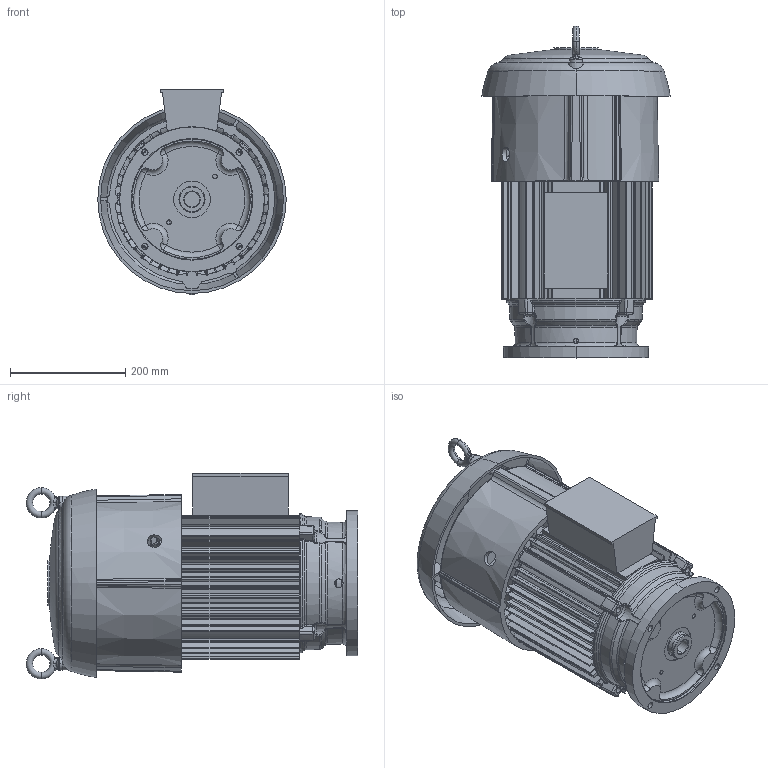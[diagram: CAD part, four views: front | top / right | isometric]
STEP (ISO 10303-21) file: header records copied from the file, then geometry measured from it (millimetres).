
FILE_DESCRIPTION((''),'2;1');
FILE_NAME('180TP_ASSY_ASM','2016-03-29T',('emd2341'),('Nidec Motor Corporation'),'PRO/ENGINEER BY PARAMETRIC TECHNOLOGY CORPORATION, 2013150','PRO/ENGINEER BY PARAMETRIC TECHNOLOGY CORPORATION, 2013150','');
FILE_SCHEMA(('CONFIG_CONTROL_DESIGN'));
Length unit declared in the file: inch
Products named in the file (9): 0344769; 0360246; 1001082; 0199540-CAP; 0367414; SHAFT; OBB; 0131400; 180TP_ASSY_ASM
Assembly tree (9 placements, depth 2):
  180TP_ASSY_ASM
    0344769
    0360246
    1001082
    0199540-CAP
    0367414
    SHAFT
    OBB
    0131400  x2
Bounding box: 327.15 x 576.02 x 357.33 mm (x, y, z)
Volume: 6431667 mm3; surface area: 1719275.1 mm2
Topology: 11 solids, 11 shells, 2297 faces, 5774 edges, 3441 vertices
Faces by surface type: bspline 982, cylinder 453, torus 293, plane 285, cone 186, sphere 74, extrusion 24
Entity records: 107463 total; most frequent: CARTESIAN_POINT 59278, ORIENTED_EDGE 11358, DIRECTION 8592, EDGE_CURVE 5679, AXIS2_PLACEMENT_3D 3684, VERTEX_POINT 3407, CIRCLE 2391, EDGE_LOOP 2366
